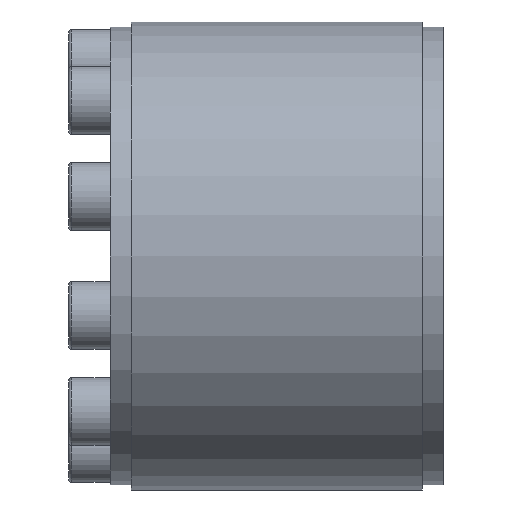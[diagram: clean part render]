
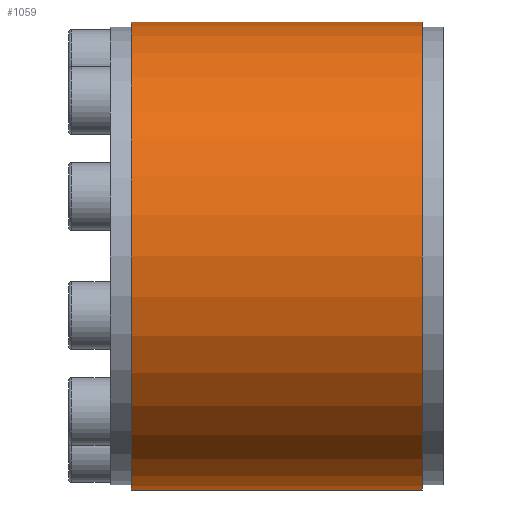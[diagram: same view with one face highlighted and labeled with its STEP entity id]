
A CAD part, left-side view. The second image highlights one B-rep face of the part: STEP entity #1059.
In plain terms, the highlighted cylindrical face has radius 45 mm (diameter 90 mm), a partial arc.
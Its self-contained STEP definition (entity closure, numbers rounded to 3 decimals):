
#13 = CARTESIAN_POINT ( 'NONE',  ( 0., 28., 45. ) ) ;
#228 = DIRECTION ( 'NONE',  ( 0., 0., -1. ) ) ;
#288 = DIRECTION ( 'NONE',  ( 0., -1., 0. ) ) ;
#314 = DIRECTION ( 'NONE',  ( 0., 0., -1. ) ) ;
#740 = VECTOR ( 'NONE', #967, 1000. ) ;
#797 = CYLINDRICAL_SURFACE ( 'NONE', #3012, 45. ) ;
#952 = AXIS2_PLACEMENT_3D ( 'NONE', #3406, #2508, #1079 ) ;
#960 = EDGE_CURVE ( 'NONE', #3801, #978, #3789, .T. ) ;
#967 = DIRECTION ( 'NONE',  ( 0., -1., 0. ) ) ;
#978 = VERTEX_POINT ( 'NONE', #2908 ) ;
#1059 = ADVANCED_FACE ( 'NONE', ( #1874 ), #797, .T. ) ;
#1079 = DIRECTION ( 'NONE',  ( 0., 0., -1. ) ) ;
#1149 = ORIENTED_EDGE ( 'NONE', *, *, #2445, .F. ) ;
#1246 = CARTESIAN_POINT ( 'NONE',  ( 0., 0., 0. ) ) ;
#1676 = CIRCLE ( 'NONE', #3498, 45. ) ;
#1698 = CARTESIAN_POINT ( 'NONE',  ( 0., -28., 0. ) ) ;
#1826 = CARTESIAN_POINT ( 'NONE',  ( 0., -28., 45. ) ) ;
#1874 = FACE_OUTER_BOUND ( 'NONE', #2628, .T. ) ;
#1896 = EDGE_CURVE ( 'NONE', #2857, #3801, #2726, .T. ) ;
#1904 = CARTESIAN_POINT ( 'NONE',  ( 0., 28., -45. ) ) ;
#2247 = ORIENTED_EDGE ( 'NONE', *, *, #960, .T. ) ;
#2251 = EDGE_CURVE ( 'NONE', #2857, #2898, #2585, .T. ) ;
#2342 = CARTESIAN_POINT ( 'NONE',  ( 0., 0., 45. ) ) ;
#2445 = EDGE_CURVE ( 'NONE', #2898, #978, #1676, .T. ) ;
#2508 = DIRECTION ( 'NONE',  ( 0., -1., 0. ) ) ;
#2585 = LINE ( 'NONE', #2342, #740 ) ;
#2628 = EDGE_LOOP ( 'NONE', ( #2830, #3322, #2247, #1149 ) ) ;
#2726 = CIRCLE ( 'NONE', #952, 45. ) ;
#2830 = ORIENTED_EDGE ( 'NONE', *, *, #2251, .F. ) ;
#2857 = VERTEX_POINT ( 'NONE', #13 ) ;
#2898 = VERTEX_POINT ( 'NONE', #1826 ) ;
#2908 = CARTESIAN_POINT ( 'NONE',  ( 0., -28., -45. ) ) ;
#3002 = VECTOR ( 'NONE', #288, 1000. ) ;
#3012 = AXIS2_PLACEMENT_3D ( 'NONE', #1246, #3261, #314 ) ;
#3261 = DIRECTION ( 'NONE',  ( 0., -1., 0. ) ) ;
#3322 = ORIENTED_EDGE ( 'NONE', *, *, #1896, .T. ) ;
#3406 = CARTESIAN_POINT ( 'NONE',  ( 0., 28., 0. ) ) ;
#3498 = AXIS2_PLACEMENT_3D ( 'NONE', #1698, #3740, #228 ) ;
#3510 = CARTESIAN_POINT ( 'NONE',  ( 0., 0., -45. ) ) ;
#3740 = DIRECTION ( 'NONE',  ( 0., -1., 0. ) ) ;
#3789 = LINE ( 'NONE', #3510, #3002 ) ;
#3801 = VERTEX_POINT ( 'NONE', #1904 ) ;
